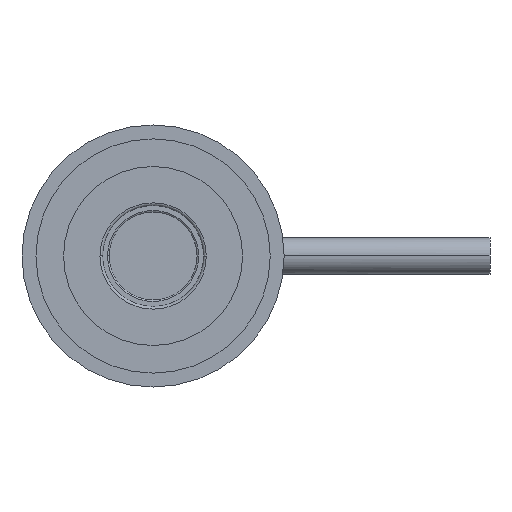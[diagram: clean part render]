
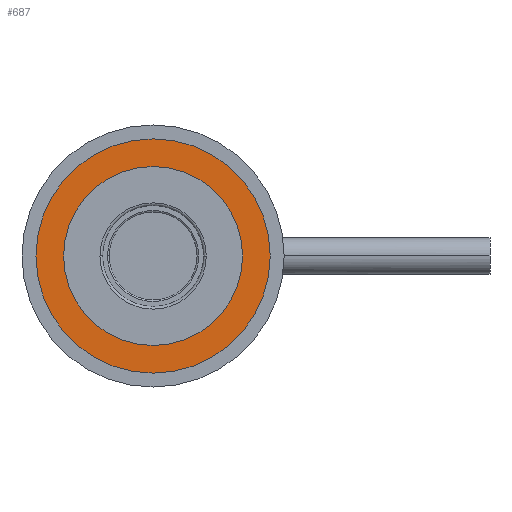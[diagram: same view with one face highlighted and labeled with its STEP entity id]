
A CAD part, front view. The second image highlights one B-rep face of the part: STEP entity #687.
In plain terms, the highlighted planar face has unit normal (0, -1, 0).
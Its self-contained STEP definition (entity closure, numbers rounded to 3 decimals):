
#37=CARTESIAN_POINT('',(0.,71.25,0.));
#38=DIRECTION('',(0.,-1.,0.));
#39=DIRECTION('',(0.,0.,1.));
#40=AXIS2_PLACEMENT_3D('',#37,#38,#39);
#42=CARTESIAN_POINT('',(0.,71.25,0.));
#43=DIRECTION('',(0.,1.,0.));
#44=DIRECTION('',(0.,0.,1.));
#45=AXIS2_PLACEMENT_3D('',#42,#43,#44);
#47=CARTESIAN_POINT('',(0.,71.25,0.));
#48=DIRECTION('',(0.,1.,0.));
#49=DIRECTION('',(0.,0.,1.));
#50=AXIS2_PLACEMENT_3D('',#47,#48,#49);
#418=CARTESIAN_POINT('',(0.,71.25,0.));
#419=DIRECTION('',(0.,-1.,0.));
#420=DIRECTION('',(0.,0.,1.));
#421=AXIS2_PLACEMENT_3D('',#418,#419,#420);
#527=CARTESIAN_POINT('',(0.,71.25,22.25));
#528=CARTESIAN_POINT('',(0.,71.25,-22.25));
#529=VERTEX_POINT('',#527);
#530=VERTEX_POINT('',#528);
#531=CARTESIAN_POINT('',(0.,71.25,17.));
#532=CARTESIAN_POINT('',(0.,71.25,-17.));
#533=VERTEX_POINT('',#531);
#534=VERTEX_POINT('',#532);
#672=CARTESIAN_POINT('',(0.,71.25,0.));
#673=DIRECTION('',(0.,1.,0.));
#674=DIRECTION('',(0.,0.,-1.));
#675=AXIS2_PLACEMENT_3D('',#672,#673,#674);
#676=PLANE('',#675);
#678=ORIENTED_EDGE('',*,*,#677,.T.);
#680=ORIENTED_EDGE('',*,*,#679,.F.);
#681=EDGE_LOOP('',(#678,#680));
#682=FACE_OUTER_BOUND('',#681,.F.);
#683=ORIENTED_EDGE('',*,*,#666,.T.);
#684=ORIENTED_EDGE('',*,*,#652,.F.);
#685=EDGE_LOOP('',(#683,#684));
#686=FACE_BOUND('',#685,.F.);
#687=ADVANCED_FACE('',(#682,#686),#676,.F.);
#41=CIRCLE('',#40,17.);
#46=CIRCLE('',#45,17.);
#51=CIRCLE('',#50,22.25);
#422=CIRCLE('',#421,22.25);
#652=EDGE_CURVE('',#533,#534,#46,.T.);
#666=EDGE_CURVE('',#533,#534,#41,.T.);
#677=EDGE_CURVE('',#529,#530,#51,.T.);
#679=EDGE_CURVE('',#529,#530,#422,.T.);
